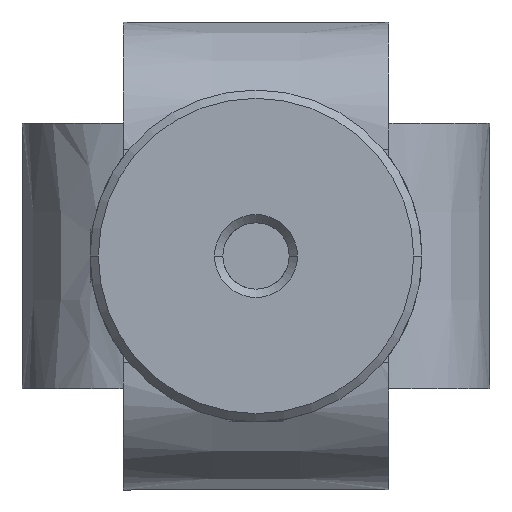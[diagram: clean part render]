
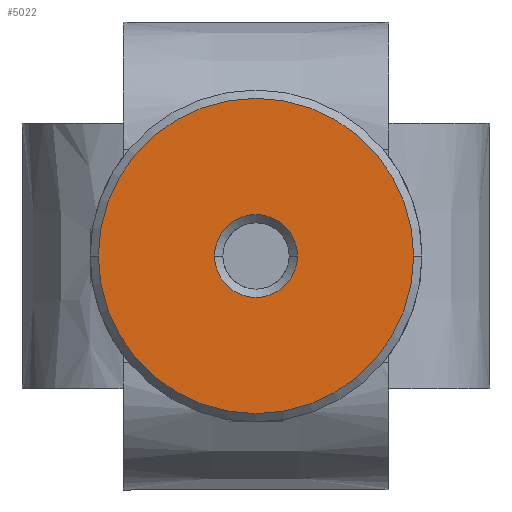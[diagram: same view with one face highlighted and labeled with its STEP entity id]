
A CAD part, front view. The second image highlights one B-rep face of the part: STEP entity #5022.
In plain terms, the highlighted planar face has unit normal (0, -1, 0).
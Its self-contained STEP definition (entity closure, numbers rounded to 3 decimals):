
#9 = CIRCLE ( 'NONE', #4096, 2.5 ) ;
#171 = EDGE_CURVE ( 'NONE', #1592, #1150, #4360, .T. ) ;
#435 = DIRECTION ( 'NONE',  ( 0., -1., 0. ) ) ;
#476 = AXIS2_PLACEMENT_3D ( 'NONE', #2428, #6101, #719 ) ;
#572 = EDGE_LOOP ( 'NONE', ( #4095, #7384 ) ) ;
#637 = PLANE ( 'NONE',  #5469 ) ;
#719 = DIRECTION ( 'NONE',  ( -1., 0., 0. ) ) ;
#750 = CARTESIAN_POINT ( 'NONE',  ( 0., -35.24, 0. ) ) ;
#1145 = CIRCLE ( 'NONE', #476, 9.5 ) ;
#1150 = VERTEX_POINT ( 'NONE', #5999 ) ;
#1592 = VERTEX_POINT ( 'NONE', #5800 ) ;
#1717 = CARTESIAN_POINT ( 'NONE',  ( 0., -35.24, 0. ) ) ;
#1791 = FACE_OUTER_BOUND ( 'NONE', #572, .T. ) ;
#1990 = FACE_BOUND ( 'NONE', #4623, .T. ) ;
#2428 = CARTESIAN_POINT ( 'NONE',  ( 0., -35.24, 0. ) ) ;
#3071 = EDGE_CURVE ( 'NONE', #3732, #7099, #9, .T. ) ;
#3095 = DIRECTION ( 'NONE',  ( -1., 0., 0. ) ) ;
#3181 = DIRECTION ( 'NONE',  ( 0., 1., 0. ) ) ;
#3429 = DIRECTION ( 'NONE',  ( -1., 0., 0. ) ) ;
#3538 = EDGE_CURVE ( 'NONE', #1150, #1592, #1145, .T. ) ;
#3732 = VERTEX_POINT ( 'NONE', #4862 ) ;
#3750 = AXIS2_PLACEMENT_3D ( 'NONE', #1717, #435, #3429 ) ;
#4095 = ORIENTED_EDGE ( 'NONE', *, *, #3538, .T. ) ;
#4096 = AXIS2_PLACEMENT_3D ( 'NONE', #750, #3181, #3095 ) ;
#4153 = CARTESIAN_POINT ( 'NONE',  ( 2.5, -35.24, 0. ) ) ;
#4250 = ORIENTED_EDGE ( 'NONE', *, *, #3071, .T. ) ;
#4290 = DIRECTION ( 'NONE',  ( -1., 0., 0. ) ) ;
#4360 = CIRCLE ( 'NONE', #3750, 9.5 ) ;
#4417 = DIRECTION ( 'NONE',  ( 0., -1., 0. ) ) ;
#4444 = EDGE_CURVE ( 'NONE', #7099, #3732, #7603, .T. ) ;
#4623 = EDGE_LOOP ( 'NONE', ( #4250, #6831 ) ) ;
#4824 = CARTESIAN_POINT ( 'NONE',  ( 0., -35.24, 0. ) ) ;
#4862 = CARTESIAN_POINT ( 'NONE',  ( -2.5, -35.24, 0. ) ) ;
#5022 = ADVANCED_FACE ( 'NONE', ( #1990, #1791 ), #637, .T. ) ;
#5469 = AXIS2_PLACEMENT_3D ( 'NONE', #4824, #4417, #6778 ) ;
#5496 = CARTESIAN_POINT ( 'NONE',  ( 0., -35.24, 0. ) ) ;
#5800 = CARTESIAN_POINT ( 'NONE',  ( -9.5, -35.24, 0. ) ) ;
#5999 = CARTESIAN_POINT ( 'NONE',  ( 9.5, -35.24, 0. ) ) ;
#6101 = DIRECTION ( 'NONE',  ( 0., -1., 0. ) ) ;
#6630 = DIRECTION ( 'NONE',  ( 0., 1., 0. ) ) ;
#6778 = DIRECTION ( 'NONE',  ( -1., 0., 0. ) ) ;
#6831 = ORIENTED_EDGE ( 'NONE', *, *, #4444, .T. ) ;
#7076 = AXIS2_PLACEMENT_3D ( 'NONE', #5496, #6630, #4290 ) ;
#7099 = VERTEX_POINT ( 'NONE', #4153 ) ;
#7384 = ORIENTED_EDGE ( 'NONE', *, *, #171, .T. ) ;
#7603 = CIRCLE ( 'NONE', #7076, 2.5 ) ;
